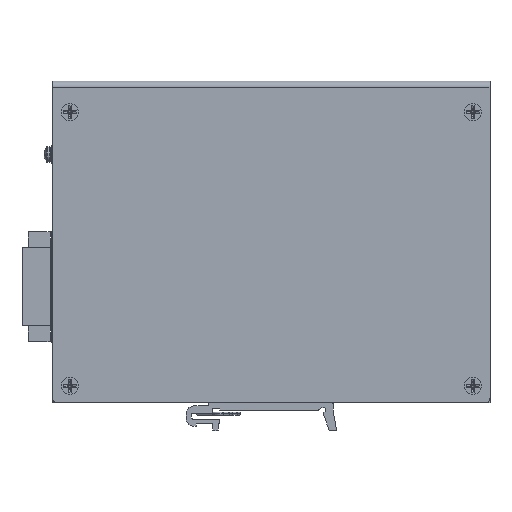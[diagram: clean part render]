
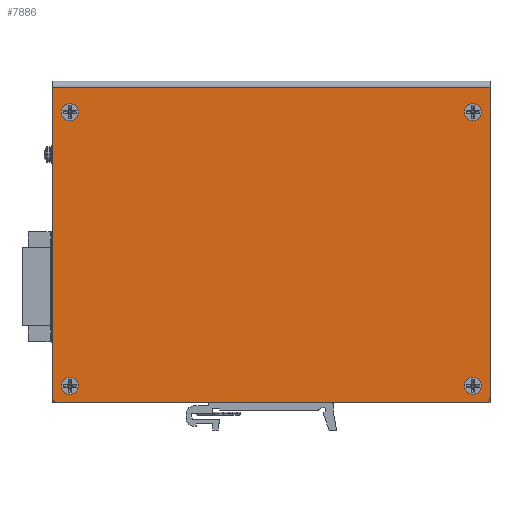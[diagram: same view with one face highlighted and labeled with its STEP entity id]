
A CAD part, front view. The second image highlights one B-rep face of the part: STEP entity #7886.
In plain terms, the highlighted planar face has unit normal (0, -1, 0) as drawn and (0, 0, 1) by its records, which use the part's own axes.
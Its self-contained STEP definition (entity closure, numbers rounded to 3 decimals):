
#5859=DIRECTION('',(0.,-1.,0.));
#5860=VECTOR('',#5859,99.5);
#5861=CARTESIAN_POINT('',(70.,14.5,17.3));
#5862=LINE('',#5861,#5860);
#5866=CARTESIAN_POINT('',(68.5,-85.,17.3));
#5867=DIRECTION('',(0.,0.,-1.));
#5868=DIRECTION('',(1.,0.,0.));
#5869=AXIS2_PLACEMENT_3D('',#5866,#5867,#5868);
#5874=DIRECTION('',(-1.,0.,0.));
#5875=VECTOR('',#5874,137.);
#5876=CARTESIAN_POINT('',(68.5,-86.5,17.3));
#5877=LINE('',#5876,#5875);
#5881=CARTESIAN_POINT('',(-68.5,-85.,17.3));
#5882=DIRECTION('',(0.,0.,-1.));
#5883=DIRECTION('',(0.,-1.,0.));
#5884=AXIS2_PLACEMENT_3D('',#5881,#5882,#5883);
#5889=DIRECTION('',(0.,1.,0.));
#5890=VECTOR('',#5889,99.5);
#5891=CARTESIAN_POINT('',(-70.,-85.,17.3));
#5892=LINE('',#5891,#5890);
#5896=CARTESIAN_POINT('',(-64.5,-81.,17.3));
#5897=DIRECTION('',(0.,0.,1.));
#5898=DIRECTION('',(-1.,0.,0.));
#5899=AXIS2_PLACEMENT_3D('',#5896,#5897,#5898);
#5904=CARTESIAN_POINT('',(-64.5,-81.,17.3));
#5905=DIRECTION('',(0.,0.,1.));
#5906=DIRECTION('',(0.,-1.,0.));
#5907=AXIS2_PLACEMENT_3D('',#5904,#5905,#5906);
#5912=CARTESIAN_POINT('',(-64.5,-81.,17.3));
#5913=DIRECTION('',(0.,0.,1.));
#5914=DIRECTION('',(1.,0.,0.));
#5915=AXIS2_PLACEMENT_3D('',#5912,#5913,#5914);
#5920=CARTESIAN_POINT('',(-64.5,-81.,17.3));
#5921=DIRECTION('',(0.,0.,1.));
#5922=DIRECTION('',(0.,1.,0.));
#5923=AXIS2_PLACEMENT_3D('',#5920,#5921,#5922);
#5928=CARTESIAN_POINT('',(-64.5,6.5,17.3));
#5929=DIRECTION('',(0.,0.,1.));
#5930=DIRECTION('',(-1.,0.,0.));
#5931=AXIS2_PLACEMENT_3D('',#5928,#5929,#5930);
#5936=CARTESIAN_POINT('',(-64.5,6.5,17.3));
#5937=DIRECTION('',(0.,0.,1.));
#5938=DIRECTION('',(0.,-1.,0.));
#5939=AXIS2_PLACEMENT_3D('',#5936,#5937,#5938);
#5944=CARTESIAN_POINT('',(-64.5,6.5,17.3));
#5945=DIRECTION('',(0.,0.,1.));
#5946=DIRECTION('',(1.,0.,0.));
#5947=AXIS2_PLACEMENT_3D('',#5944,#5945,#5946);
#5952=CARTESIAN_POINT('',(-64.5,6.5,17.3));
#5953=DIRECTION('',(0.,0.,1.));
#5954=DIRECTION('',(0.,1.,0.));
#5955=AXIS2_PLACEMENT_3D('',#5952,#5953,#5954);
#5960=CARTESIAN_POINT('',(64.5,6.5,17.3));
#5961=DIRECTION('',(0.,0.,1.));
#5962=DIRECTION('',(-1.,0.,0.));
#5963=AXIS2_PLACEMENT_3D('',#5960,#5961,#5962);
#5968=CARTESIAN_POINT('',(64.5,6.5,17.3));
#5969=DIRECTION('',(0.,0.,1.));
#5970=DIRECTION('',(0.,-1.,0.));
#5971=AXIS2_PLACEMENT_3D('',#5968,#5969,#5970);
#5976=CARTESIAN_POINT('',(64.5,6.5,17.3));
#5977=DIRECTION('',(0.,0.,1.));
#5978=DIRECTION('',(1.,0.,0.));
#5979=AXIS2_PLACEMENT_3D('',#5976,#5977,#5978);
#5984=CARTESIAN_POINT('',(64.5,6.5,17.3));
#5985=DIRECTION('',(0.,0.,1.));
#5986=DIRECTION('',(0.,1.,0.));
#5987=AXIS2_PLACEMENT_3D('',#5984,#5985,#5986);
#5992=CARTESIAN_POINT('',(64.5,-81.,17.3));
#5993=DIRECTION('',(0.,0.,1.));
#5994=DIRECTION('',(-1.,0.,0.));
#5995=AXIS2_PLACEMENT_3D('',#5992,#5993,#5994);
#6000=CARTESIAN_POINT('',(64.5,-81.,17.3));
#6001=DIRECTION('',(0.,0.,1.));
#6002=DIRECTION('',(0.,-1.,0.));
#6003=AXIS2_PLACEMENT_3D('',#6000,#6001,#6002);
#6008=CARTESIAN_POINT('',(64.5,-81.,17.3));
#6009=DIRECTION('',(0.,0.,1.));
#6010=DIRECTION('',(1.,0.,0.));
#6011=AXIS2_PLACEMENT_3D('',#6008,#6009,#6010);
#6016=CARTESIAN_POINT('',(64.5,-81.,17.3));
#6017=DIRECTION('',(0.,0.,1.));
#6018=DIRECTION('',(0.,1.,0.));
#6019=AXIS2_PLACEMENT_3D('',#6016,#6017,#6018);
#7423=DIRECTION('',(-1.,0.,0.));
#7424=VECTOR('',#7423,140.);
#7425=CARTESIAN_POINT('',(70.,14.5,17.3));
#7426=LINE('',#7425,#7424);
#7517=CARTESIAN_POINT('',(70.,-85.,17.3));
#7518=VERTEX_POINT('',#7517);
#7519=CARTESIAN_POINT('',(70.,14.5,17.3));
#7520=VERTEX_POINT('',#7519);
#7557=CARTESIAN_POINT('',(64.5,-83.65,17.3));
#7558=CARTESIAN_POINT('',(67.15,-81.,17.3));
#7559=VERTEX_POINT('',#7557);
#7560=VERTEX_POINT('',#7558);
#7561=CARTESIAN_POINT('',(61.85,-81.,17.3));
#7562=VERTEX_POINT('',#7561);
#7563=CARTESIAN_POINT('',(68.5,-86.5,17.3));
#7564=VERTEX_POINT('',#7563);
#7565=CARTESIAN_POINT('',(-68.5,-86.5,17.3));
#7566=VERTEX_POINT('',#7565);
#7567=CARTESIAN_POINT('',(-70.,-85.,17.3));
#7568=VERTEX_POINT('',#7567);
#7569=CARTESIAN_POINT('',(-70.,14.5,17.3));
#7570=VERTEX_POINT('',#7569);
#7571=CARTESIAN_POINT('',(-64.5,-83.65,17.3));
#7572=CARTESIAN_POINT('',(-61.85,-81.,17.3));
#7573=VERTEX_POINT('',#7571);
#7574=VERTEX_POINT('',#7572);
#7575=CARTESIAN_POINT('',(-67.15,-81.,17.3));
#7576=VERTEX_POINT('',#7575);
#7577=CARTESIAN_POINT('',(-64.5,-78.35,17.3));
#7578=VERTEX_POINT('',#7577);
#7579=CARTESIAN_POINT('',(-64.5,3.85,17.3));
#7580=CARTESIAN_POINT('',(-61.85,6.5,17.3));
#7581=VERTEX_POINT('',#7579);
#7582=VERTEX_POINT('',#7580);
#7583=CARTESIAN_POINT('',(-67.15,6.5,17.3));
#7584=VERTEX_POINT('',#7583);
#7585=CARTESIAN_POINT('',(-64.5,9.15,17.3));
#7586=VERTEX_POINT('',#7585);
#7587=CARTESIAN_POINT('',(64.5,3.85,17.3));
#7588=CARTESIAN_POINT('',(67.15,6.5,17.3));
#7589=VERTEX_POINT('',#7587);
#7590=VERTEX_POINT('',#7588);
#7591=CARTESIAN_POINT('',(61.85,6.5,17.3));
#7592=VERTEX_POINT('',#7591);
#7593=CARTESIAN_POINT('',(64.5,9.15,17.3));
#7594=VERTEX_POINT('',#7593);
#7595=CARTESIAN_POINT('',(64.5,-78.35,17.3));
#7596=VERTEX_POINT('',#7595);
#7828=CARTESIAN_POINT('',(-47.,16.5,17.3));
#7829=DIRECTION('',(0.,0.,1.));
#7830=DIRECTION('',(-1.,0.,0.));
#7831=AXIS2_PLACEMENT_3D('',#7828,#7829,#7830);
#7832=PLANE('',#7831);
#7834=ORIENTED_EDGE('',*,*,#7833,.T.);
#7836=ORIENTED_EDGE('',*,*,#7835,.T.);
#7838=ORIENTED_EDGE('',*,*,#7837,.T.);
#7840=ORIENTED_EDGE('',*,*,#7839,.T.);
#7841=ORIENTED_EDGE('',*,*,#7803,.T.);
#7843=ORIENTED_EDGE('',*,*,#7842,.F.);
#7844=EDGE_LOOP('',(#7834,#7836,#7838,#7840,#7841,#7843));
#7845=FACE_OUTER_BOUND('',#7844,.F.);
#7847=ORIENTED_EDGE('',*,*,#7846,.T.);
#7849=ORIENTED_EDGE('',*,*,#7848,.T.);
#7851=ORIENTED_EDGE('',*,*,#7850,.T.);
#7853=ORIENTED_EDGE('',*,*,#7852,.T.);
#7854=EDGE_LOOP('',(#7847,#7849,#7851,#7853));
#7855=FACE_BOUND('',#7854,.F.);
#7857=ORIENTED_EDGE('',*,*,#7856,.T.);
#7859=ORIENTED_EDGE('',*,*,#7858,.T.);
#7861=ORIENTED_EDGE('',*,*,#7860,.T.);
#7863=ORIENTED_EDGE('',*,*,#7862,.T.);
#7864=EDGE_LOOP('',(#7857,#7859,#7861,#7863));
#7865=FACE_BOUND('',#7864,.F.);
#7867=ORIENTED_EDGE('',*,*,#7866,.T.);
#7869=ORIENTED_EDGE('',*,*,#7868,.T.);
#7871=ORIENTED_EDGE('',*,*,#7870,.T.);
#7873=ORIENTED_EDGE('',*,*,#7872,.T.);
#7874=EDGE_LOOP('',(#7867,#7869,#7871,#7873));
#7875=FACE_BOUND('',#7874,.F.);
#7877=ORIENTED_EDGE('',*,*,#7876,.T.);
#7879=ORIENTED_EDGE('',*,*,#7878,.T.);
#7881=ORIENTED_EDGE('',*,*,#7880,.T.);
#7883=ORIENTED_EDGE('',*,*,#7882,.T.);
#7884=EDGE_LOOP('',(#7877,#7879,#7881,#7883));
#7885=FACE_BOUND('',#7884,.F.);
#5870=CIRCLE('',#5869,1.5);
#5885=CIRCLE('',#5884,1.5);
#5900=CIRCLE('',#5899,2.65);
#5908=CIRCLE('',#5907,2.65);
#5916=CIRCLE('',#5915,2.65);
#5924=CIRCLE('',#5923,2.65);
#5932=CIRCLE('',#5931,2.65);
#5940=CIRCLE('',#5939,2.65);
#5948=CIRCLE('',#5947,2.65);
#5956=CIRCLE('',#5955,2.65);
#5964=CIRCLE('',#5963,2.65);
#5972=CIRCLE('',#5971,2.65);
#5980=CIRCLE('',#5979,2.65);
#5988=CIRCLE('',#5987,2.65);
#5996=CIRCLE('',#5995,2.65);
#6004=CIRCLE('',#6003,2.65);
#6012=CIRCLE('',#6011,2.65);
#6020=CIRCLE('',#6019,2.65);
#7803=EDGE_CURVE('',#7568,#7570,#5892,.T.);
#7833=EDGE_CURVE('',#7520,#7518,#5862,.T.);
#7835=EDGE_CURVE('',#7518,#7564,#5870,.T.);
#7837=EDGE_CURVE('',#7564,#7566,#5877,.T.);
#7839=EDGE_CURVE('',#7566,#7568,#5885,.T.);
#7842=EDGE_CURVE('',#7520,#7570,#7426,.T.);
#7846=EDGE_CURVE('',#7576,#7573,#5900,.T.);
#7848=EDGE_CURVE('',#7573,#7574,#5908,.T.);
#7850=EDGE_CURVE('',#7574,#7578,#5916,.T.);
#7852=EDGE_CURVE('',#7578,#7576,#5924,.T.);
#7856=EDGE_CURVE('',#7584,#7581,#5932,.T.);
#7858=EDGE_CURVE('',#7581,#7582,#5940,.T.);
#7860=EDGE_CURVE('',#7582,#7586,#5948,.T.);
#7862=EDGE_CURVE('',#7586,#7584,#5956,.T.);
#7866=EDGE_CURVE('',#7592,#7589,#5964,.T.);
#7868=EDGE_CURVE('',#7589,#7590,#5972,.T.);
#7870=EDGE_CURVE('',#7590,#7594,#5980,.T.);
#7872=EDGE_CURVE('',#7594,#7592,#5988,.T.);
#7876=EDGE_CURVE('',#7562,#7559,#5996,.T.);
#7878=EDGE_CURVE('',#7559,#7560,#6004,.T.);
#7880=EDGE_CURVE('',#7560,#7596,#6012,.T.);
#7882=EDGE_CURVE('',#7596,#7562,#6020,.T.);
#7886=ADVANCED_FACE('',(#7845,#7855,#7865,#7875,#7885),#7832,.T.);
